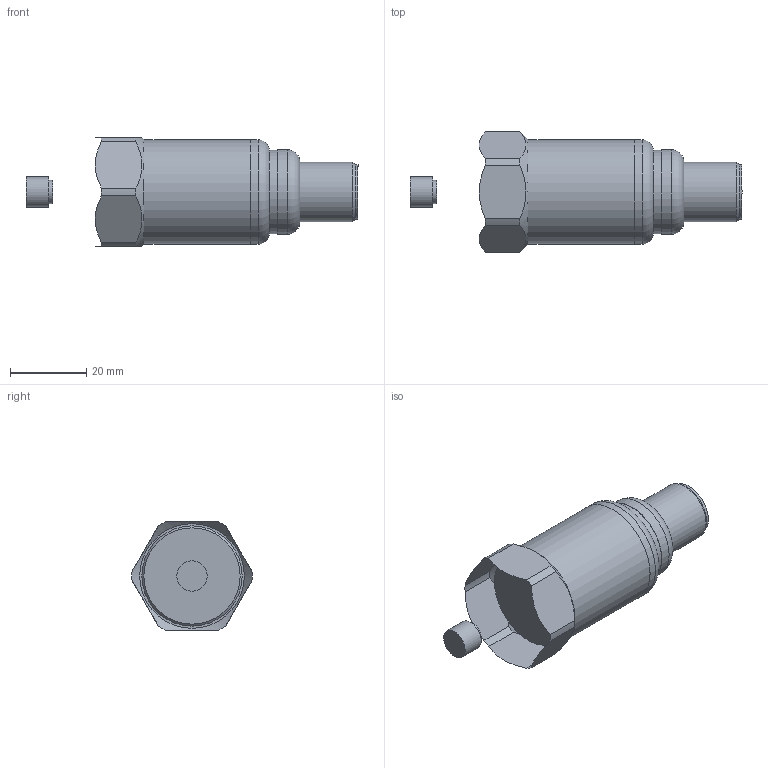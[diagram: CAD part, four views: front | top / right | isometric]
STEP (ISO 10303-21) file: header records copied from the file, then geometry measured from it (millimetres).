
FILE_DESCRIPTION(/* description */ (''),/* implementation_level */ '2;1');
FILE_NAME(/* name */ 'Z:\Engineering\Drawings\3D Library\Assemblies\Website\420 Velocity Top\HS-420XXX5019.stp',/* time_stamp */ '2023-05-03T15:26:46+01:00',/* author */ ('Ricardo.Peneda'),/* organization */ (''),/* preprocessor_version */ 'ST-DEVELOPER v18.1',/* originating_system */ 'Autodesk Inventor 2021',/* authorisation */ '');
FILE_SCHEMA (('AUTOMOTIVE_DESIGN { 1 0 10303 214 3 1 1 }'));
Length unit declared in the file: inch
Products named in the file (1): HS-420XXX5019_Shrinkwrap_1
Bounding box: 87.27 x 31.73 x 28.47 mm (x, y, z)
Volume: 18175.5 mm3; surface area: 11992.5 mm2
Topology: 3 solids, 3 shells, 46 faces, 122 edges, 88 vertices
Faces by surface type: cylinder 20, plane 18, cone 5, torus 3
Full cylindrical faces by diameter (mm): 6.094 x1, 7.998 x1, 11.37 x1, 14.28 x1, 15.7 x1, 19 x1, 20 x1, 22 x1, 22.2 x1, 23.3 x1, 25.3 x1, 25.327 x1, 27.485 x1, 27.5 x1
Entity records: 1584 total; most frequent: DIRECTION 283, CARTESIAN_POINT 281, ORIENTED_EDGE 244, AXIS2_PLACEMENT_3D 126, EDGE_CURVE 122, VERTEX_POINT 88, CIRCLE 79, EDGE_LOOP 54
